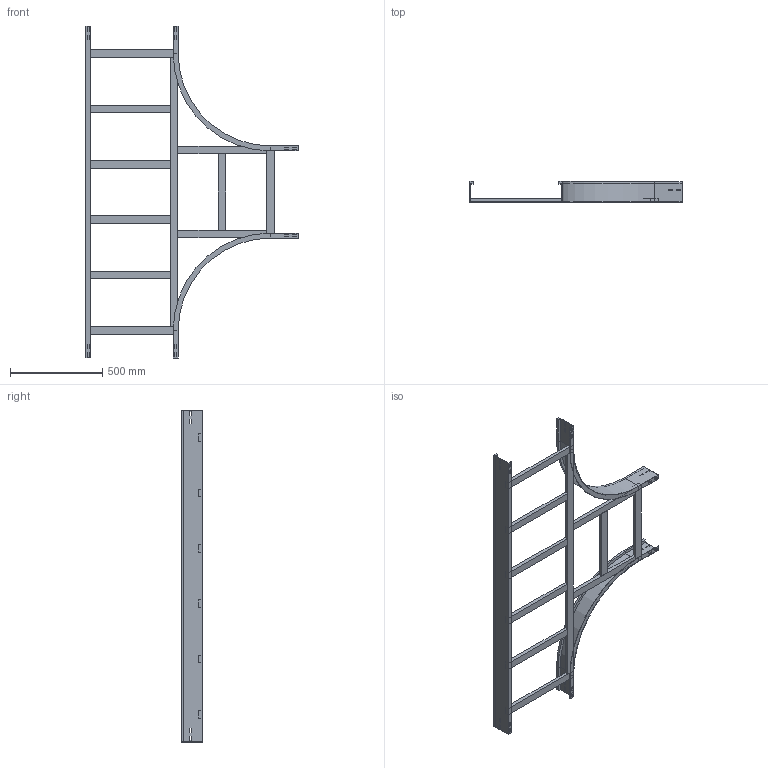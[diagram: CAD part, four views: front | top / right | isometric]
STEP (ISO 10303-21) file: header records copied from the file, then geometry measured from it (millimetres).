
FILE_DESCRIPTION (( 'STEP AP214' ), '1' );
FILE_NAME ('15B5J500.step', '2025-02-21T15:50:46', ( '' ), ( '' ), 'SwSTEP 2.0', 'SolidWorks 2023', '' );
FILE_SCHEMA (( 'AUTOMOTIVE_DESIGN' ));
Length unit declared in the file: millimetre
Products named in the file (8): TRAVERSINO_500; TRAVERSINO_LONG._R500+500; 15B5J500; TRAVERSINO_VERT_R500; TRAVERSINO_COPPIA_500; LONGH.RETT_H112.5_R500+500; LONGH.INTERNO 90°_H112.5_R500; TRAVERSINO_INTERMEDIO_R500+500
Assembly tree (14 placements, depth 2):
  15B5J500
    LONGH.INTERNO 90°_H112.5_R500  x2
    LONGH.RETT_H112.5_R500+500
    TRAVERSINO_500  x3
    TRAVERSINO_LONG._R500+500
    TRAVERSINO_INTERMEDIO_R500+500  x4
    TRAVERSINO_VERT_R500  x2
    TRAVERSINO_COPPIA_500
Bounding box: 1150 x 112.5 x 1800 mm (x, y, z)
Volume: 6835866.3 mm3; surface area: 1999602.3 mm2
Topology: 14 solids, 14 shells, 224 faces, 556 edges, 360 vertices
Faces by surface type: plane 216, cylinder 8
Entity records: 4209 total; most frequent: CARTESIAN_POINT 695, ORIENTED_EDGE 664, DIRECTION 634, EDGE_CURVE 332, VECTOR 324, LINE 324, VERTEX_POINT 216, EDGE_LOOP 162
